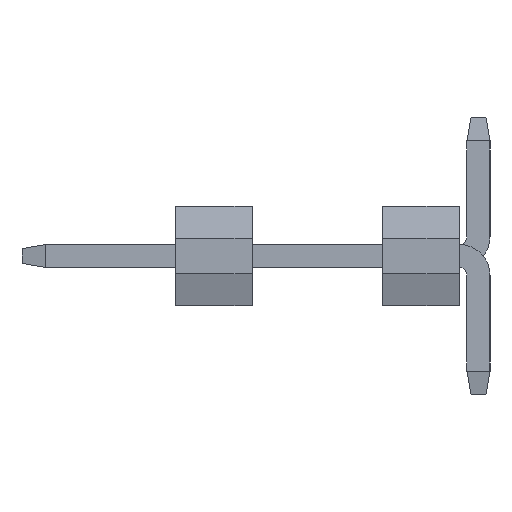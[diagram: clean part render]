
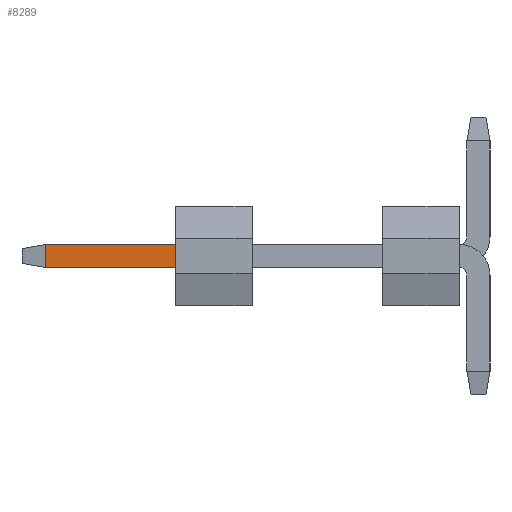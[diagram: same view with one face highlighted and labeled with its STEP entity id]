
A CAD part, left-side view. The second image highlights one B-rep face of the part: STEP entity #8289.
In plain terms, the highlighted planar face has unit normal (-1, 0, 0).
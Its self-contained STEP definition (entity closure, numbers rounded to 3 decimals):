
#367 = LINE ( 'NONE', #8066, #2749 ) ;
#1003 = DIRECTION ( 'NONE',  ( 0., 1., 0. ) ) ;
#1036 = EDGE_CURVE ( 'NONE', #10695, #23713, #1881, .T. ) ;
#1881 = LINE ( 'NONE', #4404, #14609 ) ;
#2389 = LINE ( 'NONE', #10331, #23693 ) ;
#2528 = CARTESIAN_POINT ( 'NONE',  ( -1.169, 4.015, 0.15 ) ) ;
#2749 = VECTOR ( 'NONE', #7946, 1000. ) ;
#2869 = EDGE_CURVE ( 'NONE', #8986, #13692, #17093, .T. ) ;
#4404 = CARTESIAN_POINT ( 'NONE',  ( -1.169, -1.385, -0.15 ) ) ;
#7946 = DIRECTION ( 'NONE',  ( 0., 0., 1. ) ) ;
#7950 = EDGE_LOOP ( 'NONE', ( #21770, #23512, #16326, #14741 ) ) ;
#8066 = CARTESIAN_POINT ( 'NONE',  ( -1.169, 2.315, -0.65 ) ) ;
#8289 = ADVANCED_FACE ( 'NONE', ( #12490 ), #18287, .F. ) ;
#8536 = EDGE_CURVE ( 'NONE', #23713, #8986, #367, .T. ) ;
#8609 = EDGE_CURVE ( 'NONE', #13692, #10695, #2389, .T. ) ;
#8890 = CARTESIAN_POINT ( 'NONE',  ( -1.169, 2.315, -0.15 ) ) ;
#8986 = VERTEX_POINT ( 'NONE', #12441 ) ;
#10331 = CARTESIAN_POINT ( 'NONE',  ( -1.169, 4.015, -0.25 ) ) ;
#10695 = VERTEX_POINT ( 'NONE', #24245 ) ;
#12441 = CARTESIAN_POINT ( 'NONE',  ( -1.169, 2.315, 0.15 ) ) ;
#12490 = FACE_OUTER_BOUND ( 'NONE', #7950, .T. ) ;
#13692 = VERTEX_POINT ( 'NONE', #2528 ) ;
#14609 = VECTOR ( 'NONE', #23200, 1000. ) ;
#14741 = ORIENTED_EDGE ( 'NONE', *, *, #8536, .T. ) ;
#16326 = ORIENTED_EDGE ( 'NONE', *, *, #1036, .T. ) ;
#16713 = CARTESIAN_POINT ( 'NONE',  ( -1.169, 4.315, 0.15 ) ) ;
#17093 = LINE ( 'NONE', #16713, #23539 ) ;
#18171 = CARTESIAN_POINT ( 'NONE',  ( -1.169, -1.385, -0.25 ) ) ;
#18287 = PLANE ( 'NONE',  #18855 ) ;
#18855 = AXIS2_PLACEMENT_3D ( 'NONE', #18171, #21962, #1003 ) ;
#21770 = ORIENTED_EDGE ( 'NONE', *, *, #2869, .T. ) ;
#21962 = DIRECTION ( 'NONE',  ( 1., 0., 0. ) ) ;
#22516 = DIRECTION ( 'NONE',  ( 0., 1., 0. ) ) ;
#23200 = DIRECTION ( 'NONE',  ( 0., -1., 0. ) ) ;
#23512 = ORIENTED_EDGE ( 'NONE', *, *, #8609, .T. ) ;
#23539 = VECTOR ( 'NONE', #22516, 1000. ) ;
#23693 = VECTOR ( 'NONE', #23701, 1000. ) ;
#23701 = DIRECTION ( 'NONE',  ( 0., 0., -1. ) ) ;
#23713 = VERTEX_POINT ( 'NONE', #8890 ) ;
#24245 = CARTESIAN_POINT ( 'NONE',  ( -1.169, 4.015, -0.15 ) ) ;
